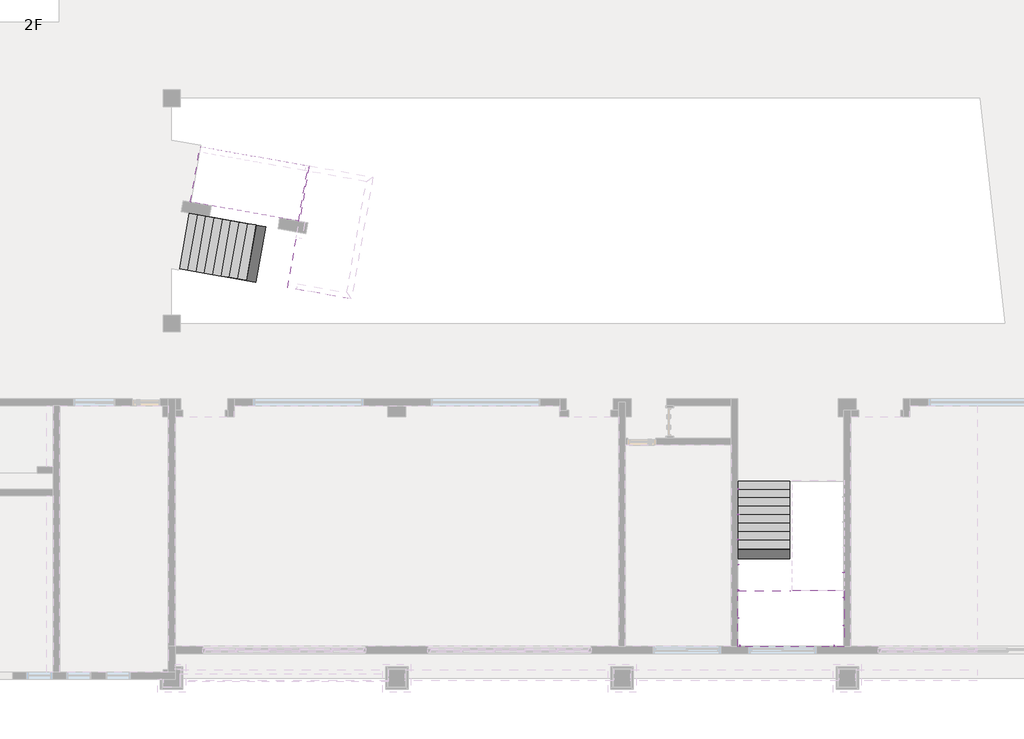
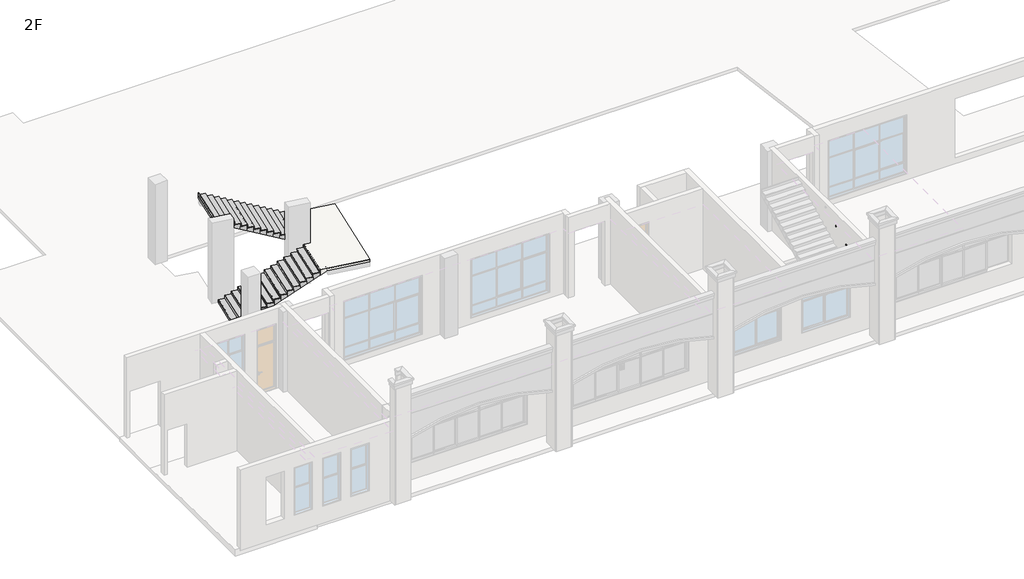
# One storey, part 11 of 16: 11 proxies, 3 stair flights, 2 slabs.
"""IFC4 building model written with IfcOpenShell, lengths in millimetres."""

from ifc_helpers import new_model, si_unit, frame, origin, place, context, project, spatial, polyline, outline, extrude, faceted_brep, transform, mapped, element, save
from components import building_element_proxy_cf76aa7a

model = new_model("IFC4")

# Units and contexts
model_context = context("Model", 3, world=origin())
ifc_project = project(units=[si_unit("LENGTHUNIT", "METRE", prefix="MILLI")], contexts=[model_context])

# Site, building, storey
site = spatial("IfcSite", under=ifc_project)
building = spatial("IfcBuilding", under=site)
storey = spatial("IfcBuildingStorey", under=building, Name="2F", Elevation=4200.0)

# Proxies
placement = place(None, origin())
building_element_proxy_shape = building_element_proxy_cf76aa7a(model_context)
element("IfcBuildingElementProxy", 1, Name="支座 - 金属 - 圆形 : 支座 - 金属 - 圆形", ObjectType="支座 - 金属 - 圆形 : 支座 - 金属 - 圆形", at=placement, inside=storey, context=model_context, shape_type="MappedRepresentation", body=[
    mapped(building_element_proxy_shape, transform((31155.0000029, 6712.7401503, 5563.4764574), x_axis=(0.0, 1.0, 0.0), y_axis=(-1.0, 0.0, 0.0), z_axis=(0.0, 0.0, 1.0))),
])
element("IfcBuildingElementProxy", 2, Name="支座 - 金属 - 圆形 : 支座 - 金属 - 圆形", ObjectType="支座 - 金属 - 圆形 : 支座 - 金属 - 圆形", at=placement, inside=storey, context=model_context, shape_type="MappedRepresentation", body=[
    mapped(building_element_proxy_shape, transform((31155.0000029, 5818.3129593, 6010.6900529), x_axis=(0.0, 1.0, 0.0), y_axis=(-1.0, 0.0, 0.0), z_axis=(0.0, 0.0, 1.0))),
])
element("IfcBuildingElementProxy", 3, Name="支座 - 金属 - 圆形 : 支座 - 金属 - 圆形", ObjectType="支座 - 金属 - 圆形 : 支座 - 金属 - 圆形", at=placement, inside=storey, context=model_context, shape_type="MappedRepresentation", body=[
    mapped(building_element_proxy_shape, transform((31155.0000029, 4923.8857683, 6457.9036484), x_axis=(0.0, 1.0, 0.0), y_axis=(-1.0, 0.0, 0.0), z_axis=(0.0, 0.0, 1.0))),
])
element("IfcBuildingElementProxy", 4, Name="支座 - 金属 - 圆形 : 支座 - 金属 - 圆形", ObjectType="支座 - 金属 - 圆形 : 支座 - 金属 - 圆形", at=placement, inside=storey, context=model_context, shape_type="MappedRepresentation", body=[
    mapped(building_element_proxy_shape, transform((31155.0000029, 4029.4585773, 6905.1172439), x_axis=(0.0, 1.0, 0.0), y_axis=(-1.0, 0.0, 0.0), z_axis=(0.0, 0.0, 1.0))),
])
element("IfcBuildingElementProxy", 5, Name="支座 - 金属 - 圆形 : 支座 - 金属 - 圆形", ObjectType="支座 - 金属 - 圆形 : 支座 - 金属 - 圆形", at=placement, inside=storey, context=model_context, shape_type="MappedRepresentation", body=[
    mapped(building_element_proxy_shape, transform((31155.0000029, 3135.0313863, 7352.3308394), x_axis=(0.0, 1.0, 0.0), y_axis=(-1.0, 0.0, 0.0), z_axis=(0.0, 0.0, 1.0))),
])
element("IfcBuildingElementProxy", 6, Name="支座 - 金属 - 圆形 : 支座 - 金属 - 圆形", ObjectType="支座 - 金属 - 圆形 : 支座 - 金属 - 圆形", at=placement, inside=storey, context=model_context, shape_type="MappedRepresentation", body=[
    mapped(building_element_proxy_shape, transform((31155.0000029, 2139.1662806, 7369.8465326), x_axis=(0.0, 1.0, 0.0), y_axis=(-1.0, 0.0, 0.0), z_axis=(0.0, 0.0, 1.0))),
])
element("IfcBuildingElementProxy", 7, Name="支座 - 金属 - 圆形 : 支座 - 金属 - 圆形", ObjectType="支座 - 金属 - 圆形 : 支座 - 金属 - 圆形", at=placement, inside=storey, context=model_context, shape_type="MappedRepresentation", body=[
    mapped(building_element_proxy_shape, transform((31188.8337223, 1173.0, 7369.8465326), x_axis=(-1.0, 0.0, 0.0), y_axis=(0.0, -1.0, 0.0), z_axis=(0.0, 0.0, 1.0))),
])
element("IfcBuildingElementProxy", 8, Name="支座 - 金属 - 圆形 : 支座 - 金属 - 圆形", ObjectType="支座 - 金属 - 圆形 : 支座 - 金属 - 圆形", at=placement, inside=storey, context=model_context, shape_type="MappedRepresentation", body=[
    mapped(building_element_proxy_shape, transform((34538.8713753, 1173.0, 7369.8465326), x_axis=(-1.0, 0.0, 0.0), y_axis=(0.0, -1.0, 0.0), z_axis=(0.0, 0.0, 1.0))),
])
element("IfcBuildingElementProxy", 9, Name="支座 - 金属 - 圆形 : 支座 - 金属 - 圆形", ObjectType="支座 - 金属 - 圆形 : 支座 - 金属 - 圆形", at=placement, inside=storey, context=model_context, shape_type="MappedRepresentation", body=[
    mapped(building_element_proxy_shape, transform((34845.0, 1866.8713753, 7369.8465326), x_axis=(0.0, -1.0, 0.0), y_axis=(1.0, 0.0, 0.0), z_axis=(0.0, 0.0, 1.0))),
])
element("IfcBuildingElementProxy", 10, Name="支座 - 金属 - 圆形 : 支座 - 金属 - 圆形", ObjectType="支座 - 金属 - 圆形 : 支座 - 金属 - 圆形", at=placement, inside=storey, context=model_context, shape_type="MappedRepresentation", body=[
    mapped(building_element_proxy_shape, transform((34845.0, 2859.8115764, 7399.7523208), x_axis=(0.0, -1.0, 0.0), y_axis=(1.0, 0.0, 0.0), z_axis=(0.0, 0.0, 1.0))),
])
element("IfcBuildingElementProxy", 11, Name="支座 - 金属 - 圆形 : 支座 - 金属 - 圆形", ObjectType="支座 - 金属 - 圆形 : 支座 - 金属 - 圆形", at=placement, inside=storey, context=model_context, shape_type="MappedRepresentation", body=[
    mapped(building_element_proxy_shape, transform((34845.0, 3754.2387674, 7846.9659163), x_axis=(0.0, -1.0, 0.0), y_axis=(1.0, 0.0, 0.0), z_axis=(0.0, 0.0, 1.0))),
])

# Slabs
element("IfcSlab", 12, ObjectType="120mm 厚度", at=placement, inside=storey, context=model_context, shape_type="SolidModel", body=[
    faceted_brep([(32950.0000029, 3100.0, 6270.0), (32950.0000029, 3070.0, 6270.0), (31100.0000029, 3070.0, 6270.0), (31100.0000029, 2741.6718427, 6270.0), (31100.0000029, 1118.0, 6270.0), (34900.0, 1118.0, 6270.0), (34900.0, 3100.0, 6270.0), (34900.0, 3130.0, 6270.0), (33050.0, 3130.0, 6270.0), (33050.0, 3100.0, 6270.0), (32950.0000029, 3100.0, 6150.0), (32950.0000029, 3070.0, 6150.0), (32950.0000029, 3070.0, 6120.0), (32950.0000029, 3070.0, 5985.8359214), (31100.0000029, 3070.0, 5985.8359214), (31100.0000029, 3070.0, 6120.0), (31100.0000029, 2741.6718427, 6150.0), (31100.0000029, 1118.0, 6150.0), (34900.0, 1118.0, 6150.0), (34900.0, 3100.0, 6150.0), (34900.0, 3130.0, 6150.0), (33050.0, 3130.0, 6150.0), (33050.0, 3100.0, 6150.0), (32950.0000029, 2741.6718427, 6150.0)], [[[0, 1, 2, 3, 4, 5, 6, 7, 8, 9]], [[1, 0, 10, 11]], [[2, 1, 11, 12, 13, 14, 15]], [[2, 15, 14, 16, 17, 4, 3]], [[5, 4, 17, 18]], [[6, 5, 18, 19]], [[7, 6, 19, 20]], [[8, 7, 20, 21]], [[9, 8, 21, 22]], [[0, 9, 22, 10]], [[16, 23, 11, 10, 22, 21, 20, 19, 18, 17]], [[23, 16, 14, 13]], [[11, 23, 13, 12]]]),
    extrude(outline(polyline([(32950.0000029, 3100.0), (33050.0, 3100.0), (34900.0, 3100.0), (34900.0, 1118.0), (31100.0000029, 1118.0), (31100.0000029, 3100.0), (32950.0000029, 3100.0)])), frame((0.0, 0.0, 6270.0), z_axis=(0.0, 0.0, 1.0), x_axis=(1.0, 0.0, 0.0)), (0.0, 0.0, 1.0), 30.0),
])
element("IfcSlab", 13, ObjectType="120mm 厚度", at=placement, inside=storey, context=model_context, shape_type="SolidModel", body=[
    faceted_brep([(15465.6994036, 15838.7829702, 6270.0), (15495.2436362, 15833.5735249, 6270.0), (15147.9472808, 13863.9580189, 6270.0), (15471.2873957, 13806.9444327, 6270.0), (17383.4608802, 13469.7766556, 6270.0), (18147.5128619, 17802.9307688, 6270.0), (15882.45503, 18202.3215775, 6270.0), (15852.9107974, 18207.5310228, 6270.0), (15505.6144421, 16237.9155168, 6270.0), (15535.1586747, 16232.7060714, 6270.0), (15465.6994036, 15838.7829702, 6150.0), (15495.2436362, 15833.5735249, 6150.0), (15495.2436362, 15833.5735249, 6120.0), (15495.2436362, 15833.5735249, 5985.8359214), (15147.9472808, 13863.9580189, 5985.8359214), (15147.9472808, 13863.9580189, 6120.0), (15471.2873957, 13806.9444327, 6150.0), (17383.4608802, 13469.7766556, 6150.0), (18147.5128619, 17802.9307688, 6150.0), (15882.45503, 18202.3215775, 6150.0), (15852.9107974, 18207.5310228, 6150.0), (15505.6144421, 16237.9155168, 6150.0), (15535.1586747, 16232.7060714, 6150.0), (15818.583751, 15776.5599387, 6150.0)], [[[0, 1, 2, 3, 4, 5, 6, 7, 8, 9]], [[1, 0, 10, 11]], [[2, 1, 11, 12, 13, 14, 15]], [[2, 15, 14, 16, 17, 4, 3]], [[5, 4, 17, 18]], [[6, 5, 18, 19]], [[7, 6, 19, 20]], [[8, 7, 20, 21]], [[9, 8, 21, 22]], [[0, 9, 22, 10]], [[16, 23, 11, 10, 22, 21, 20, 19, 18, 17]], [[23, 16, 14, 13]], [[11, 23, 13, 12]]]),
    extrude(outline(polyline([(15465.6994036, 15838.7829702), (15535.1586747, 16232.7060714), (15882.45503, 18202.3215775), (18147.5128619, 17802.9307688), (17383.4608802, 13469.7766556), (15118.4030483, 13869.1674642), (15465.6994036, 15838.7829702)])), frame((0.0, 0.0, 6270.0), z_axis=(0.0, 0.0, 1.0), x_axis=(1.0, 0.0, 0.0)), (0.0, 0.0, 1.0), 30.0),
])

# Stair flights
element("IfcStairFlight", 14, ObjectType="120mm 结构深度", at=placement, inside=storey, context=model_context, shape_type="SolidModel", body=[
    faceted_brep([(32950.0000029, 6670.0, 4320.0), (32950.0000029, 6970.0, 4320.0), (31100.0000029, 6970.0, 4320.0), (31100.0000029, 6670.0, 4320.0), (32950.0000029, 6670.0, 4200.0), (32950.0000029, 6970.0, 4200.0), (31100.0000029, 6970.0, 4200.0), (31100.0000029, 6670.0, 4200.0), (32950.0000029, 6370.0, 4470.0), (32950.0000029, 6670.0, 4470.0), (31100.0000029, 6670.0, 4470.0), (31100.0000029, 6370.0, 4470.0), (32950.0000029, 6370.0, 4335.8359214), (32950.0000029, 6641.6718427, 4200.0), (31100.0000029, 6641.6718427, 4200.0), (31100.0000029, 6370.0, 4335.8359214), (32950.0000029, 6070.0, 4620.0), (32950.0000029, 6370.0, 4620.0), (31100.0000029, 6370.0, 4620.0), (31100.0000029, 6070.0, 4620.0), (32950.0000029, 6070.0, 4485.8359214), (31100.0000029, 6070.0, 4485.8359214), (32950.0000029, 5770.0, 4770.0), (32950.0000029, 6070.0, 4770.0), (31100.0000029, 6070.0, 4770.0), (31100.0000029, 5770.0, 4770.0), (32950.0000029, 5770.0, 4635.8359214), (31100.0000029, 5770.0, 4635.8359214), (32950.0000029, 5470.0, 4920.0), (32950.0000029, 5770.0, 4920.0), (31100.0000029, 5770.0, 4920.0), (31100.0000029, 5470.0, 4920.0), (32950.0000029, 5470.0, 4785.8359214), (31100.0000029, 5470.0, 4785.8359214), (32950.0000029, 5170.0, 5070.0), (32950.0000029, 5470.0, 5070.0), (31100.0000029, 5470.0, 5070.0), (31100.0000029, 5170.0, 5070.0), (32950.0000029, 5170.0, 4935.8359214), (31100.0000029, 5170.0, 4935.8359214), (32950.0000029, 4870.0, 5220.0), (32950.0000029, 5170.0, 5220.0), (31100.0000029, 5170.0, 5220.0), (31100.0000029, 4870.0, 5220.0), (32950.0000029, 4870.0, 5085.8359214), (31100.0000029, 4870.0, 5085.8359214), (32950.0000029, 4570.0, 5370.0), (32950.0000029, 4870.0, 5370.0), (31100.0000029, 4870.0, 5370.0), (31100.0000029, 4570.0, 5370.0), (32950.0000029, 4570.0, 5235.8359214), (31100.0000029, 4570.0, 5235.8359214), (32950.0000029, 4270.0, 5520.0), (32950.0000029, 4570.0, 5520.0), (31100.0000029, 4570.0, 5520.0), (31100.0000029, 4270.0, 5520.0), (32950.0000029, 4270.0, 5385.8359214), (31100.0000029, 4270.0, 5385.8359214), (32950.0000029, 3970.0, 5670.0), (32950.0000029, 4270.0, 5670.0), (31100.0000029, 4270.0, 5670.0), (31100.0000029, 3970.0, 5670.0), (32950.0000029, 3970.0, 5535.8359214), (31100.0000029, 3970.0, 5535.8359214), (32950.0000029, 3670.0, 5820.0), (32950.0000029, 3970.0, 5820.0), (31100.0000029, 3970.0, 5820.0), (31100.0000029, 3670.0, 5820.0), (32950.0000029, 3670.0, 5685.8359214), (31100.0000029, 3670.0, 5685.8359214), (32950.0000029, 3370.0, 5970.0), (32950.0000029, 3670.0, 5970.0), (31100.0000029, 3670.0, 5970.0), (31100.0000029, 3370.0, 5970.0), (32950.0000029, 3370.0, 5835.8359214), (31100.0000029, 3370.0, 5835.8359214), (32950.0000029, 3070.0, 6120.0), (32950.0000029, 3370.0, 6120.0), (31100.0000029, 3370.0, 6120.0), (31100.0000029, 3100.0, 6120.0), (31100.0000029, 3070.0, 6120.0), (32950.0000029, 3070.0, 5985.8359214), (31100.0000029, 3100.0, 5970.8359214), (31100.0000029, 3070.0, 5985.8359214)], [[[0, 1, 2, 3]], [[1, 0, 4, 5]], [[2, 1, 5, 6]], [[3, 2, 6, 7]], [[8, 9, 10, 11]], [[4, 0, 9, 8, 12, 13]], [[0, 3, 10, 9]], [[3, 7, 14, 15, 11, 10]], [[16, 17, 18, 19]], [[17, 16, 20, 12, 8]], [[8, 11, 18, 17]], [[19, 18, 11, 15, 21]], [[22, 23, 24, 25]], [[23, 22, 26, 20, 16]], [[16, 19, 24, 23]], [[25, 24, 19, 21, 27]], [[28, 29, 30, 31]], [[29, 28, 32, 26, 22]], [[22, 25, 30, 29]], [[31, 30, 25, 27, 33]], [[34, 35, 36, 37]], [[35, 34, 38, 32, 28]], [[28, 31, 36, 35]], [[37, 36, 31, 33, 39]], [[40, 41, 42, 43]], [[41, 40, 44, 38, 34]], [[34, 37, 42, 41]], [[43, 42, 37, 39, 45]], [[46, 47, 48, 49]], [[47, 46, 50, 44, 40]], [[40, 43, 48, 47]], [[49, 48, 43, 45, 51]], [[52, 53, 54, 55]], [[53, 52, 56, 50, 46]], [[46, 49, 54, 53]], [[55, 54, 49, 51, 57]], [[58, 59, 60, 61]], [[59, 58, 62, 56, 52]], [[52, 55, 60, 59]], [[61, 60, 55, 57, 63]], [[64, 65, 66, 67]], [[65, 64, 68, 62, 58]], [[58, 61, 66, 65]], [[67, 66, 61, 63, 69]], [[70, 71, 72, 73]], [[71, 70, 74, 68, 64]], [[64, 67, 72, 71]], [[73, 72, 67, 69, 75]], [[76, 77, 78, 79, 80]], [[77, 76, 81, 74, 70]], [[70, 73, 78, 77]], [[78, 73, 75, 82, 83, 80, 79]], [[76, 80, 83, 81]], [[5, 4, 13, 14, 7, 6]], [[14, 13, 12, 20, 26, 32, 38, 44, 50, 56, 62, 68, 74, 81, 83, 82, 75, 69, 63, 57, 51, 45, 39, 33, 27, 21, 15]]]),
    extrude(outline(polyline([(31100.0000029, 6970.0), (31100.0000029, 7000.0), (32950.0000029, 7000.0), (32950.0000029, 6970.0), (31100.0000029, 6970.0)])), frame((0.0, 0.0, 4200.0), z_axis=(0.0, 0.0, 1.0), x_axis=(1.0, 0.0, 0.0)), (0.0, 0.0, 1.0), 120.0),
    extrude(outline(polyline([(32950.0000029, 6700.0), (31100.0000029, 6700.0), (31100.0000029, 7000.0), (32950.0000029, 7000.0), (32950.0000029, 6700.0)])), frame((0.0, 0.0, 4320.0), z_axis=(0.0, 0.0, 1.0), x_axis=(1.0, 0.0, 0.0)), (0.0, 0.0, 1.0), 30.0),
    extrude(outline(polyline([(31100.0000029, 6670.0), (31100.0000029, 6700.0), (32950.0000029, 6700.0), (32950.0000029, 6670.0), (31100.0000029, 6670.0)])), frame((0.0, 0.0, 4320.0), z_axis=(0.0, 0.0, 1.0), x_axis=(1.0, 0.0, 0.0)), (0.0, 0.0, 1.0), 150.0),
    extrude(outline(polyline([(32950.0000029, 6400.0), (31100.0000029, 6400.0), (31100.0000029, 6700.0), (32950.0000029, 6700.0), (32950.0000029, 6400.0)])), frame((0.0, 0.0, 4470.0), z_axis=(0.0, 0.0, 1.0), x_axis=(1.0, 0.0, 0.0)), (0.0, 0.0, 1.0), 30.0),
    extrude(outline(polyline([(31100.0000029, 6370.0), (31100.0000029, 6400.0), (32950.0000029, 6400.0), (32950.0000029, 6370.0), (31100.0000029, 6370.0)])), frame((0.0, 0.0, 4470.0), z_axis=(0.0, 0.0, 1.0), x_axis=(1.0, 0.0, 0.0)), (0.0, 0.0, 1.0), 150.0),
    extrude(outline(polyline([(32950.0000029, 6100.0), (31100.0000029, 6100.0), (31100.0000029, 6400.0), (32950.0000029, 6400.0), (32950.0000029, 6100.0)])), frame((0.0, 0.0, 4620.0), z_axis=(0.0, 0.0, 1.0), x_axis=(1.0, 0.0, 0.0)), (0.0, 0.0, 1.0), 30.0),
    extrude(outline(polyline([(31100.0000029, 6070.0), (31100.0000029, 6100.0), (32950.0000029, 6100.0), (32950.0000029, 6070.0), (31100.0000029, 6070.0)])), frame((0.0, 0.0, 4620.0), z_axis=(0.0, 0.0, 1.0), x_axis=(1.0, 0.0, 0.0)), (0.0, 0.0, 1.0), 150.0),
    extrude(outline(polyline([(32950.0000029, 5800.0), (31100.0000029, 5800.0), (31100.0000029, 6100.0), (32950.0000029, 6100.0), (32950.0000029, 5800.0)])), frame((0.0, 0.0, 4770.0), z_axis=(0.0, 0.0, 1.0), x_axis=(1.0, 0.0, 0.0)), (0.0, 0.0, 1.0), 30.0),
    extrude(outline(polyline([(31100.0000029, 5770.0), (31100.0000029, 5800.0), (32950.0000029, 5800.0), (32950.0000029, 5770.0), (31100.0000029, 5770.0)])), frame((0.0, 0.0, 4770.0), z_axis=(0.0, 0.0, 1.0), x_axis=(1.0, 0.0, 0.0)), (0.0, 0.0, 1.0), 150.0),
    extrude(outline(polyline([(32950.0000029, 5500.0), (31100.0000029, 5500.0), (31100.0000029, 5800.0), (32950.0000029, 5800.0), (32950.0000029, 5500.0)])), frame((0.0, 0.0, 4920.0), z_axis=(0.0, 0.0, 1.0), x_axis=(1.0, 0.0, 0.0)), (0.0, 0.0, 1.0), 30.0),
    extrude(outline(polyline([(31100.0000029, 5470.0), (31100.0000029, 5500.0), (32950.0000029, 5500.0), (32950.0000029, 5470.0), (31100.0000029, 5470.0)])), frame((0.0, 0.0, 4920.0), z_axis=(0.0, 0.0, 1.0), x_axis=(1.0, 0.0, 0.0)), (0.0, 0.0, 1.0), 150.0),
    extrude(outline(polyline([(32950.0000029, 5200.0), (31100.0000029, 5200.0), (31100.0000029, 5500.0), (32950.0000029, 5500.0), (32950.0000029, 5200.0)])), frame((0.0, 0.0, 5070.0), z_axis=(0.0, 0.0, 1.0), x_axis=(1.0, 0.0, 0.0)), (0.0, 0.0, 1.0), 30.0),
    extrude(outline(polyline([(31100.0000029, 5170.0), (31100.0000029, 5200.0), (32950.0000029, 5200.0), (32950.0000029, 5170.0), (31100.0000029, 5170.0)])), frame((0.0, 0.0, 5070.0), z_axis=(0.0, 0.0, 1.0), x_axis=(1.0, 0.0, 0.0)), (0.0, 0.0, 1.0), 150.0),
    extrude(outline(polyline([(32950.0000029, 4900.0), (31100.0000029, 4900.0), (31100.0000029, 5200.0), (32950.0000029, 5200.0), (32950.0000029, 4900.0)])), frame((0.0, 0.0, 5220.0), z_axis=(0.0, 0.0, 1.0), x_axis=(1.0, 0.0, 0.0)), (0.0, 0.0, 1.0), 30.0),
    extrude(outline(polyline([(31100.0000029, 4870.0), (31100.0000029, 4900.0), (32950.0000029, 4900.0), (32950.0000029, 4870.0), (31100.0000029, 4870.0)])), frame((0.0, 0.0, 5220.0), z_axis=(0.0, 0.0, 1.0), x_axis=(1.0, 0.0, 0.0)), (0.0, 0.0, 1.0), 150.0),
    extrude(outline(polyline([(32950.0000029, 4600.0), (31100.0000029, 4600.0), (31100.0000029, 4900.0), (32950.0000029, 4900.0), (32950.0000029, 4600.0)])), frame((0.0, 0.0, 5370.0), z_axis=(0.0, 0.0, 1.0), x_axis=(1.0, 0.0, 0.0)), (0.0, 0.0, 1.0), 30.0),
    extrude(outline(polyline([(31100.0000029, 4570.0), (31100.0000029, 4600.0), (32950.0000029, 4600.0), (32950.0000029, 4570.0), (31100.0000029, 4570.0)])), frame((0.0, 0.0, 5370.0), z_axis=(0.0, 0.0, 1.0), x_axis=(1.0, 0.0, 0.0)), (0.0, 0.0, 1.0), 150.0),
    extrude(outline(polyline([(32950.0000029, 4300.0), (31100.0000029, 4300.0), (31100.0000029, 4600.0), (32950.0000029, 4600.0), (32950.0000029, 4300.0)])), frame((0.0, 0.0, 5520.0), z_axis=(0.0, 0.0, 1.0), x_axis=(1.0, 0.0, 0.0)), (0.0, 0.0, 1.0), 30.0),
    extrude(outline(polyline([(31100.0000029, 4270.0), (31100.0000029, 4300.0), (32950.0000029, 4300.0), (32950.0000029, 4270.0), (31100.0000029, 4270.0)])), frame((0.0, 0.0, 5520.0), z_axis=(0.0, 0.0, 1.0), x_axis=(1.0, 0.0, 0.0)), (0.0, 0.0, 1.0), 150.0),
    extrude(outline(polyline([(32950.0000029, 4000.0), (31100.0000029, 4000.0), (31100.0000029, 4300.0), (32950.0000029, 4300.0), (32950.0000029, 4000.0)])), frame((0.0, 0.0, 5670.0), z_axis=(0.0, 0.0, 1.0), x_axis=(1.0, 0.0, 0.0)), (0.0, 0.0, 1.0), 30.0),
    extrude(outline(polyline([(31100.0000029, 3970.0), (31100.0000029, 4000.0), (32950.0000029, 4000.0), (32950.0000029, 3970.0), (31100.0000029, 3970.0)])), frame((0.0, 0.0, 5670.0), z_axis=(0.0, 0.0, 1.0), x_axis=(1.0, 0.0, 0.0)), (0.0, 0.0, 1.0), 150.0),
    extrude(outline(polyline([(32950.0000029, 3700.0), (31100.0000029, 3700.0), (31100.0000029, 4000.0), (32950.0000029, 4000.0), (32950.0000029, 3700.0)])), frame((0.0, 0.0, 5820.0), z_axis=(0.0, 0.0, 1.0), x_axis=(1.0, 0.0, 0.0)), (0.0, 0.0, 1.0), 30.0),
    extrude(outline(polyline([(31100.0000029, 3670.0), (31100.0000029, 3700.0), (32950.0000029, 3700.0), (32950.0000029, 3670.0), (31100.0000029, 3670.0)])), frame((0.0, 0.0, 5820.0), z_axis=(0.0, 0.0, 1.0), x_axis=(1.0, 0.0, 0.0)), (0.0, 0.0, 1.0), 150.0),
    extrude(outline(polyline([(32950.0000029, 3400.0), (31100.0000029, 3400.0), (31100.0000029, 3700.0), (32950.0000029, 3700.0), (32950.0000029, 3400.0)])), frame((0.0, 0.0, 5970.0), z_axis=(0.0, 0.0, 1.0), x_axis=(1.0, 0.0, 0.0)), (0.0, 0.0, 1.0), 30.0),
    extrude(outline(polyline([(31100.0000029, 3370.0), (31100.0000029, 3400.0), (32950.0000029, 3400.0), (32950.0000029, 3370.0), (31100.0000029, 3370.0)])), frame((0.0, 0.0, 5970.0), z_axis=(0.0, 0.0, 1.0), x_axis=(1.0, 0.0, 0.0)), (0.0, 0.0, 1.0), 150.0),
    extrude(outline(polyline([(31100.0000029, 3070.0), (31100.0000029, 3100.0), (32950.0000029, 3100.0), (32950.0000029, 3070.0), (31100.0000029, 3070.0)])), frame((0.0, 0.0, 6120.0), z_axis=(0.0, 0.0, 1.0), x_axis=(1.0, 0.0, 0.0)), (0.0, 0.0, 1.0), 150.0),
    extrude(outline(polyline([(32950.0000029, 3100.0), (31100.0000029, 3100.0), (31100.0000029, 3400.0), (32950.0000029, 3400.0), (32950.0000029, 3100.0)])), frame((0.0, 0.0, 6120.0), z_axis=(0.0, 0.0, 1.0), x_axis=(1.0, 0.0, 0.0)), (0.0, 0.0, 1.0), 30.0),
])
element("IfcStairFlight", 15, ObjectType="120mm 结构深度", at=placement, inside=storey, context=model_context, shape_type="SolidModel", body=[
    faceted_brep([(11949.9357253, 16458.7069645, 4320.0), (11654.4933994, 16510.8014178, 4320.0), (11307.1970441, 14541.1859118, 4320.0), (11602.63937, 14489.0914585, 4320.0), (11949.9357253, 16458.7069645, 4200.0), (11654.4933994, 16510.8014178, 4200.0), (11307.1970441, 14541.1859118, 4200.0), (11602.63937, 14489.0914585, 4200.0), (12245.3780512, 16406.6125112, 4470.0), (11949.9357253, 16458.7069645, 4470.0), (11602.63937, 14489.0914585, 4470.0), (11898.0816959, 14436.9970052, 4470.0), (12245.3780512, 16406.6125112, 4335.8359214), (11977.8335143, 16453.7878316, 4200.0), (11630.5371589, 14484.1723256, 4200.0), (11898.0816959, 14436.9970052, 4335.8359214), (12540.8203771, 16354.5180579, 4620.0), (12245.3780512, 16406.6125112, 4620.0), (11898.0816959, 14436.9970052, 4620.0), (12193.5240218, 14384.9025519, 4620.0), (12540.8203771, 16354.5180579, 4485.8359214), (12193.5240218, 14384.9025519, 4485.8359214), (12836.262703, 16302.4236046, 4770.0), (12540.8203771, 16354.5180579, 4770.0), (12193.5240218, 14384.9025519, 4770.0), (12488.9663477, 14332.8080986, 4770.0), (12836.262703, 16302.4236046, 4635.8359214), (12488.9663477, 14332.8080986, 4635.8359214), (13131.7050289, 16250.3291513, 4920.0), (12836.262703, 16302.4236046, 4920.0), (12488.9663477, 14332.8080986, 4920.0), (12784.4086736, 14280.7136453, 4920.0), (13131.7050289, 16250.3291513, 4785.8359214), (12784.4086736, 14280.7136453, 4785.8359214), (13427.1473549, 16198.234698, 5070.0), (13131.7050289, 16250.3291513, 5070.0), (12784.4086736, 14280.7136453, 5070.0), (13079.8509995, 14228.619192, 5070.0), (13427.1473549, 16198.234698, 4935.8359214), (13079.8509995, 14228.619192, 4935.8359214), (13722.5896808, 16146.1402447, 5220.0), (13427.1473549, 16198.234698, 5220.0), (13079.8509995, 14228.619192, 5220.0), (13375.2933254, 14176.5247387, 5220.0), (13722.5896808, 16146.1402447, 5085.8359214), (13375.2933254, 14176.5247387, 5085.8359214), (14018.0320067, 16094.0457914, 5370.0), (13722.5896808, 16146.1402447, 5370.0), (13375.2933254, 14176.5247387, 5370.0), (13670.7356513, 14124.4302854, 5370.0), (14018.0320067, 16094.0457914, 5235.8359214), (13670.7356513, 14124.4302854, 5235.8359214), (14313.4743326, 16041.9513381, 5520.0), (14018.0320067, 16094.0457914, 5520.0), (13670.7356513, 14124.4302854, 5520.0), (13966.1779772, 14072.3358321, 5520.0), (14313.4743326, 16041.9513381, 5385.8359214), (13966.1779772, 14072.3358321, 5385.8359214), (14608.9166585, 15989.8568848, 5670.0), (14313.4743326, 16041.9513381, 5670.0), (13966.1779772, 14072.3358321, 5670.0), (14261.6203031, 14020.2413788, 5670.0), (14608.9166585, 15989.8568848, 5535.8359214), (14261.6203031, 14020.2413788, 5535.8359214), (14904.3589844, 15937.7624315, 5820.0), (14608.9166585, 15989.8568848, 5820.0), (14261.6203031, 14020.2413788, 5820.0), (14557.062629, 13968.1469255, 5820.0), (14904.3589844, 15937.7624315, 5685.8359214), (14557.062629, 13968.1469255, 5685.8359214), (15199.8013103, 15885.6679782, 5970.0), (14904.3589844, 15937.7624315, 5970.0), (14557.062629, 13968.1469255, 5970.0), (14852.5049549, 13916.0524722, 5970.0), (15199.8013103, 15885.6679782, 5835.8359214), (14852.5049549, 13916.0524722, 5835.8359214), (15495.2436362, 15833.5735249, 6120.0), (15199.8013103, 15885.6679782, 6120.0), (14852.5049549, 13916.0524722, 6120.0), (15118.4030483, 13869.1674642, 6120.0), (15147.9472808, 13863.9580189, 6120.0), (15495.2436362, 15833.5735249, 5985.8359214), (15118.4030483, 13869.1674642, 5970.8359214), (15147.9472808, 13863.9580189, 5985.8359214)], [[[0, 1, 2, 3]], [[1, 0, 4, 5]], [[2, 1, 5, 6]], [[3, 2, 6, 7]], [[8, 9, 10, 11]], [[4, 0, 9, 8, 12, 13]], [[0, 3, 10, 9]], [[3, 7, 14, 15, 11, 10]], [[16, 17, 18, 19]], [[17, 16, 20, 12, 8]], [[8, 11, 18, 17]], [[19, 18, 11, 15, 21]], [[22, 23, 24, 25]], [[23, 22, 26, 20, 16]], [[16, 19, 24, 23]], [[25, 24, 19, 21, 27]], [[28, 29, 30, 31]], [[29, 28, 32, 26, 22]], [[22, 25, 30, 29]], [[31, 30, 25, 27, 33]], [[34, 35, 36, 37]], [[35, 34, 38, 32, 28]], [[28, 31, 36, 35]], [[37, 36, 31, 33, 39]], [[40, 41, 42, 43]], [[41, 40, 44, 38, 34]], [[34, 37, 42, 41]], [[43, 42, 37, 39, 45]], [[46, 47, 48, 49]], [[47, 46, 50, 44, 40]], [[40, 43, 48, 47]], [[49, 48, 43, 45, 51]], [[52, 53, 54, 55]], [[53, 52, 56, 50, 46]], [[46, 49, 54, 53]], [[55, 54, 49, 51, 57]], [[58, 59, 60, 61]], [[59, 58, 62, 56, 52]], [[52, 55, 60, 59]], [[61, 60, 55, 57, 63]], [[64, 65, 66, 67]], [[65, 64, 68, 62, 58]], [[58, 61, 66, 65]], [[67, 66, 61, 63, 69]], [[70, 71, 72, 73]], [[71, 70, 74, 68, 64]], [[64, 67, 72, 71]], [[73, 72, 67, 69, 75]], [[76, 77, 78, 79, 80]], [[77, 76, 81, 74, 70]], [[70, 73, 78, 77]], [[78, 73, 75, 82, 83, 80, 79]], [[76, 80, 83, 81]], [[5, 4, 13, 14, 7, 6]], [[14, 13, 12, 20, 26, 32, 38, 44, 50, 56, 62, 68, 74, 81, 83, 82, 75, 69, 63, 57, 51, 45, 39, 33, 27, 21, 15]]]),
    extrude(outline(polyline([(11307.1970441, 14541.1859118), (11277.6528115, 14546.3953571), (11624.9491668, 16516.0108631), (11654.4933994, 16510.8014178), (11307.1970441, 14541.1859118)])), frame((0.0, 0.0, 4200.0), z_axis=(0.0, 0.0, 1.0), x_axis=(1.0, 0.0, 0.0)), (0.0, 0.0, 1.0), 120.0),
    extrude(outline(polyline([(11920.3914927, 16463.9164098), (11573.0951374, 14494.3009038), (11277.6528115, 14546.3953571), (11624.9491668, 16516.0108631), (11920.3914927, 16463.9164098)])), frame((0.0, 0.0, 4320.0), z_axis=(0.0, 0.0, 1.0), x_axis=(1.0, 0.0, 0.0)), (0.0, 0.0, 1.0), 30.0),
    extrude(outline(polyline([(11602.63937, 14489.0914585), (11573.0951374, 14494.3009038), (11920.3914927, 16463.9164098), (11949.9357253, 16458.7069645), (11602.63937, 14489.0914585)])), frame((0.0, 0.0, 4320.0), z_axis=(0.0, 0.0, 1.0), x_axis=(1.0, 0.0, 0.0)), (0.0, 0.0, 1.0), 150.0),
    extrude(outline(polyline([(12215.8338186, 16411.8219565), (11868.5374633, 14442.2064505), (11573.0951374, 14494.3009038), (11920.3914927, 16463.9164098), (12215.8338186, 16411.8219565)])), frame((0.0, 0.0, 4470.0), z_axis=(0.0, 0.0, 1.0), x_axis=(1.0, 0.0, 0.0)), (0.0, 0.0, 1.0), 30.0),
    extrude(outline(polyline([(11898.0816959, 14436.9970052), (11868.5374633, 14442.2064505), (12215.8338186, 16411.8219565), (12245.3780512, 16406.6125112), (11898.0816959, 14436.9970052)])), frame((0.0, 0.0, 4470.0), z_axis=(0.0, 0.0, 1.0), x_axis=(1.0, 0.0, 0.0)), (0.0, 0.0, 1.0), 150.0),
    extrude(outline(polyline([(12511.2761446, 16359.7275032), (12163.9797892, 14390.1119972), (11868.5374633, 14442.2064505), (12215.8338186, 16411.8219565), (12511.2761446, 16359.7275032)])), frame((0.0, 0.0, 4620.0), z_axis=(0.0, 0.0, 1.0), x_axis=(1.0, 0.0, 0.0)), (0.0, 0.0, 1.0), 30.0),
    extrude(outline(polyline([(12193.5240218, 14384.9025519), (12163.9797892, 14390.1119972), (12511.2761446, 16359.7275032), (12540.8203771, 16354.5180579), (12193.5240218, 14384.9025519)])), frame((0.0, 0.0, 4620.0), z_axis=(0.0, 0.0, 1.0), x_axis=(1.0, 0.0, 0.0)), (0.0, 0.0, 1.0), 150.0),
    extrude(outline(polyline([(12806.7184705, 16307.6330499), (12459.4221151, 14338.0175439), (12163.9797892, 14390.1119972), (12511.2761446, 16359.7275032), (12806.7184705, 16307.6330499)])), frame((0.0, 0.0, 4770.0), z_axis=(0.0, 0.0, 1.0), x_axis=(1.0, 0.0, 0.0)), (0.0, 0.0, 1.0), 30.0),
    extrude(outline(polyline([(12488.9663477, 14332.8080986), (12459.4221151, 14338.0175439), (12806.7184705, 16307.6330499), (12836.262703, 16302.4236046), (12488.9663477, 14332.8080986)])), frame((0.0, 0.0, 4770.0), z_axis=(0.0, 0.0, 1.0), x_axis=(1.0, 0.0, 0.0)), (0.0, 0.0, 1.0), 150.0),
    extrude(outline(polyline([(13102.1607964, 16255.5385966), (12754.864441, 14285.9230906), (12459.4221151, 14338.0175439), (12806.7184705, 16307.6330499), (13102.1607964, 16255.5385966)])), frame((0.0, 0.0, 4920.0), z_axis=(0.0, 0.0, 1.0), x_axis=(1.0, 0.0, 0.0)), (0.0, 0.0, 1.0), 30.0),
    extrude(outline(polyline([(12784.4086736, 14280.7136453), (12754.864441, 14285.9230906), (13102.1607964, 16255.5385966), (13131.7050289, 16250.3291513), (12784.4086736, 14280.7136453)])), frame((0.0, 0.0, 4920.0), z_axis=(0.0, 0.0, 1.0), x_axis=(1.0, 0.0, 0.0)), (0.0, 0.0, 1.0), 150.0),
    extrude(outline(polyline([(13397.6031223, 16203.4441433), (13050.3067669, 14233.8286373), (12754.864441, 14285.9230906), (13102.1607964, 16255.5385966), (13397.6031223, 16203.4441433)])), frame((0.0, 0.0, 5070.0), z_axis=(0.0, 0.0, 1.0), x_axis=(1.0, 0.0, 0.0)), (0.0, 0.0, 1.0), 30.0),
    extrude(outline(polyline([(13079.8509995, 14228.619192), (13050.3067669, 14233.8286373), (13397.6031223, 16203.4441433), (13427.1473549, 16198.234698), (13079.8509995, 14228.619192)])), frame((0.0, 0.0, 5070.0), z_axis=(0.0, 0.0, 1.0), x_axis=(1.0, 0.0, 0.0)), (0.0, 0.0, 1.0), 150.0),
    extrude(outline(polyline([(13693.0454482, 16151.34969), (13345.7490928, 14181.734184), (13050.3067669, 14233.8286373), (13397.6031223, 16203.4441433), (13693.0454482, 16151.34969)])), frame((0.0, 0.0, 5220.0), z_axis=(0.0, 0.0, 1.0), x_axis=(1.0, 0.0, 0.0)), (0.0, 0.0, 1.0), 30.0),
    extrude(outline(polyline([(13375.2933254, 14176.5247387), (13345.7490928, 14181.734184), (13693.0454482, 16151.34969), (13722.5896808, 16146.1402447), (13375.2933254, 14176.5247387)])), frame((0.0, 0.0, 5220.0), z_axis=(0.0, 0.0, 1.0), x_axis=(1.0, 0.0, 0.0)), (0.0, 0.0, 1.0), 150.0),
    extrude(outline(polyline([(13988.4877741, 16099.2552367), (13641.1914187, 14129.6397307), (13345.7490928, 14181.734184), (13693.0454482, 16151.34969), (13988.4877741, 16099.2552367)])), frame((0.0, 0.0, 5370.0), z_axis=(0.0, 0.0, 1.0), x_axis=(1.0, 0.0, 0.0)), (0.0, 0.0, 1.0), 30.0),
    extrude(outline(polyline([(13670.7356513, 14124.4302854), (13641.1914187, 14129.6397307), (13988.4877741, 16099.2552367), (14018.0320067, 16094.0457914), (13670.7356513, 14124.4302854)])), frame((0.0, 0.0, 5370.0), z_axis=(0.0, 0.0, 1.0), x_axis=(1.0, 0.0, 0.0)), (0.0, 0.0, 1.0), 150.0),
    extrude(outline(polyline([(14283.9301, 16047.1607834), (13936.6337446, 14077.5452774), (13641.1914187, 14129.6397307), (13988.4877741, 16099.2552367), (14283.9301, 16047.1607834)])), frame((0.0, 0.0, 5520.0), z_axis=(0.0, 0.0, 1.0), x_axis=(1.0, 0.0, 0.0)), (0.0, 0.0, 1.0), 30.0),
    extrude(outline(polyline([(13966.1779772, 14072.3358321), (13936.6337446, 14077.5452774), (14283.9301, 16047.1607834), (14313.4743326, 16041.9513381), (13966.1779772, 14072.3358321)])), frame((0.0, 0.0, 5520.0), z_axis=(0.0, 0.0, 1.0), x_axis=(1.0, 0.0, 0.0)), (0.0, 0.0, 1.0), 150.0),
    extrude(outline(polyline([(14579.3724259, 15995.0663301), (14232.0760705, 14025.4508241), (13936.6337446, 14077.5452774), (14283.9301, 16047.1607834), (14579.3724259, 15995.0663301)])), frame((0.0, 0.0, 5670.0), z_axis=(0.0, 0.0, 1.0), x_axis=(1.0, 0.0, 0.0)), (0.0, 0.0, 1.0), 30.0),
    extrude(outline(polyline([(14261.6203031, 14020.2413788), (14232.0760705, 14025.4508241), (14579.3724259, 15995.0663301), (14608.9166585, 15989.8568848), (14261.6203031, 14020.2413788)])), frame((0.0, 0.0, 5670.0), z_axis=(0.0, 0.0, 1.0), x_axis=(1.0, 0.0, 0.0)), (0.0, 0.0, 1.0), 150.0),
    extrude(outline(polyline([(14874.8147518, 15942.9718768), (14527.5183964, 13973.3563708), (14232.0760705, 14025.4508241), (14579.3724259, 15995.0663301), (14874.8147518, 15942.9718768)])), frame((0.0, 0.0, 5820.0), z_axis=(0.0, 0.0, 1.0), x_axis=(1.0, 0.0, 0.0)), (0.0, 0.0, 1.0), 30.0),
    extrude(outline(polyline([(14557.062629, 13968.1469255), (14527.5183964, 13973.3563708), (14874.8147518, 15942.9718768), (14904.3589844, 15937.7624315), (14557.062629, 13968.1469255)])), frame((0.0, 0.0, 5820.0), z_axis=(0.0, 0.0, 1.0), x_axis=(1.0, 0.0, 0.0)), (0.0, 0.0, 1.0), 150.0),
    extrude(outline(polyline([(15170.2570777, 15890.8774235), (14822.9607224, 13921.2619175), (14527.5183964, 13973.3563708), (14874.8147518, 15942.9718768), (15170.2570777, 15890.8774235)])), frame((0.0, 0.0, 5970.0), z_axis=(0.0, 0.0, 1.0), x_axis=(1.0, 0.0, 0.0)), (0.0, 0.0, 1.0), 30.0),
    extrude(outline(polyline([(14852.5049549, 13916.0524722), (14822.9607224, 13921.2619175), (15170.2570777, 15890.8774235), (15199.8013103, 15885.6679782), (14852.5049549, 13916.0524722)])), frame((0.0, 0.0, 5970.0), z_axis=(0.0, 0.0, 1.0), x_axis=(1.0, 0.0, 0.0)), (0.0, 0.0, 1.0), 150.0),
    extrude(outline(polyline([(15147.9472808, 13863.9580189), (15118.4030483, 13869.1674642), (15465.6994036, 15838.7829702), (15495.2436362, 15833.5735249), (15147.9472808, 13863.9580189)])), frame((0.0, 0.0, 6120.0), z_axis=(0.0, 0.0, 1.0), x_axis=(1.0, 0.0, 0.0)), (0.0, 0.0, 1.0), 150.0),
    extrude(outline(polyline([(15465.6994036, 15838.7829702), (15118.4030483, 13869.1674642), (14822.9607224, 13921.2619175), (15170.2570777, 15890.8774235), (15465.6994036, 15838.7829702)])), frame((0.0, 0.0, 6120.0), z_axis=(0.0, 0.0, 1.0), x_axis=(1.0, 0.0, 0.0)), (0.0, 0.0, 1.0), 30.0),
])
element("IfcStairFlight", 16, ObjectType="120mm 结构深度", at=placement, inside=storey, context=model_context, shape_type="SolidModel", body=[
    faceted_brep([(15505.6144421, 16237.9155168, 6420.0), (15852.9107974, 18207.5310228, 6420.0), (15825.0130085, 18212.4501557, 6420.0), (15557.4684715, 18259.6254761, 6420.0), (15210.1721162, 16290.0099701, 6420.0), (15477.7166531, 16242.8346497, 6420.0), (15210.1721162, 16290.0099701, 6285.8359214), (15477.7166531, 16242.8346497, 6150.0), (15505.6144421, 16237.9155168, 6150.0), (15505.6144421, 16237.9155168, 6270.0), (15852.9107974, 18207.5310228, 6150.0), (15852.9107974, 18207.5310228, 6270.0), (15825.0130085, 18212.4501557, 6150.0), (15557.4684715, 18259.6254761, 6285.8359214), (14914.7297903, 16342.1044234, 6570.0), (15210.1721162, 16290.0099701, 6570.0), (15557.4684715, 18259.6254761, 6570.0), (15262.0261456, 18311.7199294, 6570.0), (14914.7297903, 16342.1044234, 6435.8359214), (15262.0261456, 18311.7199294, 6435.8359214), (14619.2874644, 16394.1988767, 6720.0), (14914.7297903, 16342.1044234, 6720.0), (15262.0261456, 18311.7199294, 6720.0), (14966.5838197, 18363.8143827, 6720.0), (14619.2874644, 16394.1988767, 6585.8359214), (14966.5838197, 18363.8143827, 6585.8359214), (14323.8451385, 16446.29333, 6870.0), (14619.2874644, 16394.1988767, 6870.0), (14966.5838197, 18363.8143827, 6870.0), (14671.1414938, 18415.908836, 6870.0), (14323.8451385, 16446.29333, 6735.8359214), (14671.1414938, 18415.908836, 6735.8359214), (14028.4028125, 16498.3877833, 7020.0), (14323.8451385, 16446.29333, 7020.0), (14671.1414938, 18415.908836, 7020.0), (14375.6991679, 18468.0032893, 7020.0), (14028.4028125, 16498.3877833, 6885.8359214), (14375.6991679, 18468.0032893, 6885.8359214), (13732.9604866, 16550.4822366, 7170.0), (14028.4028125, 16498.3877833, 7170.0), (14375.6991679, 18468.0032893, 7170.0), (14080.256842, 18520.0977426, 7170.0), (13732.9604866, 16550.4822366, 7035.8359214), (14080.256842, 18520.0977426, 7035.8359214), (13437.5181607, 16602.5766899, 7320.0), (13732.9604866, 16550.4822366, 7320.0), (14080.256842, 18520.0977426, 7320.0), (13784.8145161, 18572.1921959, 7320.0), (13437.5181607, 16602.5766899, 7185.8359214), (13784.8145161, 18572.1921959, 7185.8359214), (13142.0758348, 16654.6711432, 7470.0), (13437.5181607, 16602.5766899, 7470.0), (13784.8145161, 18572.1921959, 7470.0), (13489.3721902, 18624.2866492, 7470.0), (13142.0758348, 16654.6711432, 7335.8359214), (13489.3721902, 18624.2866492, 7335.8359214), (12846.6335089, 16706.7655965, 7620.0), (13142.0758348, 16654.6711432, 7620.0), (13489.3721902, 18624.2866492, 7620.0), (13193.9298643, 18676.3811025, 7620.0), (12846.6335089, 16706.7655965, 7485.8359214), (13193.9298643, 18676.3811025, 7485.8359214), (12551.191183, 16758.8600498, 7770.0), (12846.6335089, 16706.7655965, 7770.0), (13193.9298643, 18676.3811025, 7770.0), (12898.4875384, 18728.4755558, 7770.0), (12551.191183, 16758.8600498, 7635.8359214), (12898.4875384, 18728.4755558, 7635.8359214), (12255.7488571, 16810.9545031, 7920.0), (12551.191183, 16758.8600498, 7920.0), (12898.4875384, 18728.4755558, 7920.0), (12603.0452125, 18780.5700091, 7920.0), (12255.7488571, 16810.9545031, 7785.8359214), (12603.0452125, 18780.5700091, 7785.8359214), (11960.3065312, 16863.0489564, 8070.0), (12255.7488571, 16810.9545031, 8070.0), (12603.0452125, 18780.5700091, 8070.0), (12307.6028866, 18832.6644624, 8070.0), (11960.3065312, 16863.0489564, 7935.8359214), (12307.6028866, 18832.6644624, 7935.8359214), (11664.8642053, 16915.1434097, 8220.0), (11960.3065312, 16863.0489564, 8220.0), (12307.6028866, 18832.6644624, 8220.0), (12012.1605607, 18884.7589157, 8220.0), (11664.8642053, 16915.1434097, 8085.8359214), (12012.1605607, 18884.7589157, 8085.8359214)], [[[0, 1, 2, 3, 4, 5]], [[4, 6, 7, 8, 9, 0, 5]], [[1, 0, 9, 8, 10, 11]], [[1, 11, 10, 12, 13, 3, 2]], [[14, 15, 16, 17]], [[15, 14, 18, 6, 4]], [[16, 15, 4, 3]], [[17, 16, 3, 13, 19]], [[20, 21, 22, 23]], [[21, 20, 24, 18, 14]], [[22, 21, 14, 17]], [[23, 22, 17, 19, 25]], [[26, 27, 28, 29]], [[27, 26, 30, 24, 20]], [[28, 27, 20, 23]], [[29, 28, 23, 25, 31]], [[32, 33, 34, 35]], [[33, 32, 36, 30, 26]], [[34, 33, 26, 29]], [[35, 34, 29, 31, 37]], [[38, 39, 40, 41]], [[39, 38, 42, 36, 32]], [[40, 39, 32, 35]], [[41, 40, 35, 37, 43]], [[44, 45, 46, 47]], [[45, 44, 48, 42, 38]], [[46, 45, 38, 41]], [[47, 46, 41, 43, 49]], [[50, 51, 52, 53]], [[51, 50, 54, 48, 44]], [[52, 51, 44, 47]], [[53, 52, 47, 49, 55]], [[56, 57, 58, 59]], [[57, 56, 60, 54, 50]], [[58, 57, 50, 53]], [[59, 58, 53, 55, 61]], [[62, 63, 64, 65]], [[63, 62, 66, 60, 56]], [[64, 63, 56, 59]], [[65, 64, 59, 61, 67]], [[68, 69, 70, 71]], [[69, 68, 72, 66, 62]], [[70, 69, 62, 65]], [[71, 70, 65, 67, 73]], [[74, 75, 76, 77]], [[75, 74, 78, 72, 68]], [[76, 75, 68, 71]], [[77, 76, 71, 73, 79]], [[80, 81, 82, 83]], [[81, 80, 84, 78, 74]], [[82, 81, 74, 77]], [[83, 82, 77, 79, 85]], [[80, 83, 85, 84]], [[12, 7, 6, 18, 24, 30, 36, 42, 48, 54, 60, 66, 72, 78, 84, 85, 79, 73, 67, 61, 55, 49, 43, 37, 31, 25, 19, 13]], [[7, 12, 10, 8]]]),
    extrude(outline(polyline([(15852.9107974, 18207.5310228), (15882.45503, 18202.3215775), (15535.1586747, 16232.7060714), (15505.6144421, 16237.9155168), (15852.9107974, 18207.5310228)])), frame((0.0, 0.0, 6270.0), z_axis=(0.0, 0.0, 1.0), x_axis=(1.0, 0.0, 0.0)), (0.0, 0.0, 1.0), 150.0),
    extrude(outline(polyline([(15239.7163488, 16284.8005247), (15587.0127041, 18254.4160308), (15882.45503, 18202.3215775), (15535.1586747, 16232.7060714), (15239.7163488, 16284.8005247)])), frame((0.0, 0.0, 6420.0), z_axis=(0.0, 0.0, 1.0), x_axis=(1.0, 0.0, 0.0)), (0.0, 0.0, 1.0), 30.0),
    extrude(outline(polyline([(15557.4684715, 18259.6254761), (15587.0127041, 18254.4160308), (15239.7163488, 16284.8005247), (15210.1721162, 16290.0099701), (15557.4684715, 18259.6254761)])), frame((0.0, 0.0, 6420.0), z_axis=(0.0, 0.0, 1.0), x_axis=(1.0, 0.0, 0.0)), (0.0, 0.0, 1.0), 150.0),
    extrude(outline(polyline([(14944.2740228, 16336.894978), (15291.5703782, 18306.5104841), (15587.0127041, 18254.4160308), (15239.7163488, 16284.8005247), (14944.2740228, 16336.894978)])), frame((0.0, 0.0, 6570.0), z_axis=(0.0, 0.0, 1.0), x_axis=(1.0, 0.0, 0.0)), (0.0, 0.0, 1.0), 30.0),
    extrude(outline(polyline([(15262.0261456, 18311.7199294), (15291.5703782, 18306.5104841), (14944.2740228, 16336.894978), (14914.7297903, 16342.1044234), (15262.0261456, 18311.7199294)])), frame((0.0, 0.0, 6570.0), z_axis=(0.0, 0.0, 1.0), x_axis=(1.0, 0.0, 0.0)), (0.0, 0.0, 1.0), 150.0),
    extrude(outline(polyline([(14648.8316969, 16388.9894313), (14996.1280523, 18358.6049374), (15291.5703782, 18306.5104841), (14944.2740228, 16336.894978), (14648.8316969, 16388.9894313)])), frame((0.0, 0.0, 6720.0), z_axis=(0.0, 0.0, 1.0), x_axis=(1.0, 0.0, 0.0)), (0.0, 0.0, 1.0), 30.0),
    extrude(outline(polyline([(14966.5838197, 18363.8143827), (14996.1280523, 18358.6049374), (14648.8316969, 16388.9894313), (14619.2874644, 16394.1988767), (14966.5838197, 18363.8143827)])), frame((0.0, 0.0, 6720.0), z_axis=(0.0, 0.0, 1.0), x_axis=(1.0, 0.0, 0.0)), (0.0, 0.0, 1.0), 150.0),
    extrude(outline(polyline([(14353.389371, 16441.0838846), (14700.6857264, 18410.6993907), (14996.1280523, 18358.6049374), (14648.8316969, 16388.9894313), (14353.389371, 16441.0838846)])), frame((0.0, 0.0, 6870.0), z_axis=(0.0, 0.0, 1.0), x_axis=(1.0, 0.0, 0.0)), (0.0, 0.0, 1.0), 30.0),
    extrude(outline(polyline([(14671.1414938, 18415.908836), (14700.6857264, 18410.6993907), (14353.389371, 16441.0838846), (14323.8451385, 16446.29333), (14671.1414938, 18415.908836)])), frame((0.0, 0.0, 6870.0), z_axis=(0.0, 0.0, 1.0), x_axis=(1.0, 0.0, 0.0)), (0.0, 0.0, 1.0), 150.0),
    extrude(outline(polyline([(14057.9470451, 16493.1783379), (14405.2434005, 18462.793844), (14700.6857264, 18410.6993907), (14353.389371, 16441.0838846), (14057.9470451, 16493.1783379)])), frame((0.0, 0.0, 7020.0), z_axis=(0.0, 0.0, 1.0), x_axis=(1.0, 0.0, 0.0)), (0.0, 0.0, 1.0), 30.0),
    extrude(outline(polyline([(14375.6991679, 18468.0032893), (14405.2434005, 18462.793844), (14057.9470451, 16493.1783379), (14028.4028125, 16498.3877833), (14375.6991679, 18468.0032893)])), frame((0.0, 0.0, 7020.0), z_axis=(0.0, 0.0, 1.0), x_axis=(1.0, 0.0, 0.0)), (0.0, 0.0, 1.0), 150.0),
    extrude(outline(polyline([(13762.5047192, 16545.2727912), (14109.8010746, 18514.8882973), (14405.2434005, 18462.793844), (14057.9470451, 16493.1783379), (13762.5047192, 16545.2727912)])), frame((0.0, 0.0, 7170.0), z_axis=(0.0, 0.0, 1.0), x_axis=(1.0, 0.0, 0.0)), (0.0, 0.0, 1.0), 30.0),
    extrude(outline(polyline([(14080.256842, 18520.0977426), (14109.8010746, 18514.8882973), (13762.5047192, 16545.2727912), (13732.9604866, 16550.4822366), (14080.256842, 18520.0977426)])), frame((0.0, 0.0, 7170.0), z_axis=(0.0, 0.0, 1.0), x_axis=(1.0, 0.0, 0.0)), (0.0, 0.0, 1.0), 150.0),
    extrude(outline(polyline([(13467.0623933, 16597.3672445), (13814.3587487, 18566.9827506), (14109.8010746, 18514.8882973), (13762.5047192, 16545.2727912), (13467.0623933, 16597.3672445)])), frame((0.0, 0.0, 7320.0), z_axis=(0.0, 0.0, 1.0), x_axis=(1.0, 0.0, 0.0)), (0.0, 0.0, 1.0), 30.0),
    extrude(outline(polyline([(13784.8145161, 18572.1921959), (13814.3587487, 18566.9827506), (13467.0623933, 16597.3672445), (13437.5181607, 16602.5766899), (13784.8145161, 18572.1921959)])), frame((0.0, 0.0, 7320.0), z_axis=(0.0, 0.0, 1.0), x_axis=(1.0, 0.0, 0.0)), (0.0, 0.0, 1.0), 150.0),
    extrude(outline(polyline([(13171.6200674, 16649.4616978), (13518.9164228, 18619.0772039), (13814.3587487, 18566.9827506), (13467.0623933, 16597.3672445), (13171.6200674, 16649.4616978)])), frame((0.0, 0.0, 7470.0), z_axis=(0.0, 0.0, 1.0), x_axis=(1.0, 0.0, 0.0)), (0.0, 0.0, 1.0), 30.0),
    extrude(outline(polyline([(13489.3721902, 18624.2866492), (13518.9164228, 18619.0772039), (13171.6200674, 16649.4616978), (13142.0758348, 16654.6711432), (13489.3721902, 18624.2866492)])), frame((0.0, 0.0, 7470.0), z_axis=(0.0, 0.0, 1.0), x_axis=(1.0, 0.0, 0.0)), (0.0, 0.0, 1.0), 150.0),
    extrude(outline(polyline([(12876.1777415, 16701.5561511), (13223.4740969, 18671.1716572), (13518.9164228, 18619.0772039), (13171.6200674, 16649.4616978), (12876.1777415, 16701.5561511)])), frame((0.0, 0.0, 7620.0), z_axis=(0.0, 0.0, 1.0), x_axis=(1.0, 0.0, 0.0)), (0.0, 0.0, 1.0), 30.0),
    extrude(outline(polyline([(13193.9298643, 18676.3811025), (13223.4740969, 18671.1716572), (12876.1777415, 16701.5561511), (12846.6335089, 16706.7655965), (13193.9298643, 18676.3811025)])), frame((0.0, 0.0, 7620.0), z_axis=(0.0, 0.0, 1.0), x_axis=(1.0, 0.0, 0.0)), (0.0, 0.0, 1.0), 150.0),
    extrude(outline(polyline([(12580.7354156, 16753.6506044), (12928.031771, 18723.2661105), (13223.4740969, 18671.1716572), (12876.1777415, 16701.5561511), (12580.7354156, 16753.6506044)])), frame((0.0, 0.0, 7770.0), z_axis=(0.0, 0.0, 1.0), x_axis=(1.0, 0.0, 0.0)), (0.0, 0.0, 1.0), 30.0),
    extrude(outline(polyline([(12898.4875384, 18728.4755558), (12928.031771, 18723.2661105), (12580.7354156, 16753.6506044), (12551.191183, 16758.8600498), (12898.4875384, 18728.4755558)])), frame((0.0, 0.0, 7770.0), z_axis=(0.0, 0.0, 1.0), x_axis=(1.0, 0.0, 0.0)), (0.0, 0.0, 1.0), 150.0),
    extrude(outline(polyline([(12285.2930897, 16805.7450577), (12632.589445, 18775.3605638), (12928.031771, 18723.2661105), (12580.7354156, 16753.6506044), (12285.2930897, 16805.7450577)])), frame((0.0, 0.0, 7920.0), z_axis=(0.0, 0.0, 1.0), x_axis=(1.0, 0.0, 0.0)), (0.0, 0.0, 1.0), 30.0),
    extrude(outline(polyline([(12603.0452125, 18780.5700091), (12632.589445, 18775.3605638), (12285.2930897, 16805.7450577), (12255.7488571, 16810.9545031), (12603.0452125, 18780.5700091)])), frame((0.0, 0.0, 7920.0), z_axis=(0.0, 0.0, 1.0), x_axis=(1.0, 0.0, 0.0)), (0.0, 0.0, 1.0), 150.0),
    extrude(outline(polyline([(11989.8507638, 16857.839511), (12337.1471191, 18827.4550171), (12632.589445, 18775.3605638), (12285.2930897, 16805.7450577), (11989.8507638, 16857.839511)])), frame((0.0, 0.0, 8070.0), z_axis=(0.0, 0.0, 1.0), x_axis=(1.0, 0.0, 0.0)), (0.0, 0.0, 1.0), 30.0),
    extrude(outline(polyline([(12307.6028866, 18832.6644624), (12337.1471191, 18827.4550171), (11989.8507638, 16857.839511), (11960.3065312, 16863.0489564), (12307.6028866, 18832.6644624)])), frame((0.0, 0.0, 8070.0), z_axis=(0.0, 0.0, 1.0), x_axis=(1.0, 0.0, 0.0)), (0.0, 0.0, 1.0), 150.0),
    extrude(outline(polyline([(12012.1605607, 18884.7589157), (12041.7047932, 18879.5494704), (11694.4084379, 16909.9339643), (11664.8642053, 16915.1434097), (12012.1605607, 18884.7589157)])), frame((0.0, 0.0, 8220.0), z_axis=(0.0, 0.0, 1.0), x_axis=(1.0, 0.0, 0.0)), (0.0, 0.0, 1.0), 150.0),
    extrude(outline(polyline([(11694.4084379, 16909.9339643), (12041.7047932, 18879.5494704), (12337.1471191, 18827.4550171), (11989.8507638, 16857.839511), (11694.4084379, 16909.9339643)])), frame((0.0, 0.0, 8220.0), z_axis=(0.0, 0.0, 1.0), x_axis=(1.0, 0.0, 0.0)), (0.0, 0.0, 1.0), 30.0),
])

save(model, "model.ifc")
